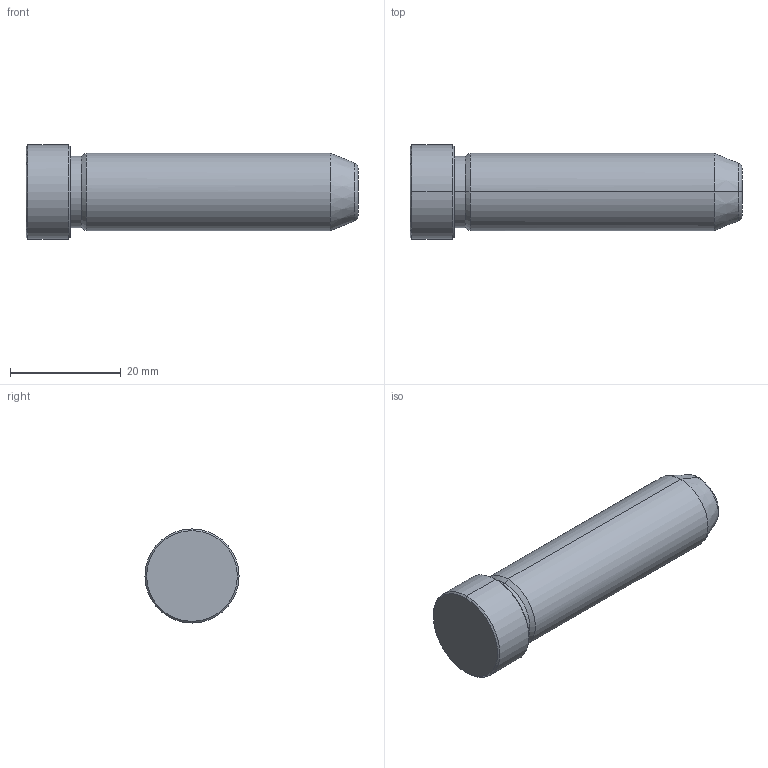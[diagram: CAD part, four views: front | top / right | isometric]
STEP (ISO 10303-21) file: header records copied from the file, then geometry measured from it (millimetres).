
FILE_DESCRIPTION(('CATIA V5 STEP Exchange'),'2;1');
FILE_NAME('C:\Users\Utente\Desktop\IO LAVORO\3D X SITO CF\X SITO\PLASTICA\549\549-14X60.stp','2021-12-11T09:28:13+00:00',('none'),('none'),'CATIA Version 5 Release 20 GA (IN-10)','CATIA V5 STEP AP203','none');
FILE_SCHEMA(('CONFIG_CONTROL_DESIGN'));
Length unit declared in the file: millimetre
Products named in the file (1): 549-14X60
Bounding box: 60 x 17 x 17 mm (x, y, z)
Volume: 9560.9 mm3; surface area: 3070.3 mm2
Topology: 1 solids, 1 shells, 19 faces, 56 edges, 40 vertices
Faces by surface type: cone 8, cylinder 6, plane 3, torus 2
Entity records: 736 total; most frequent: CARTESIAN_POINT 192, ORIENTED_EDGE 112, DIRECTION 86, EDGE_CURVE 56, AXIS2_PLACEMENT_3D 54, VERTEX_POINT 40, CIRCLE 34, EDGE_LOOP 20
